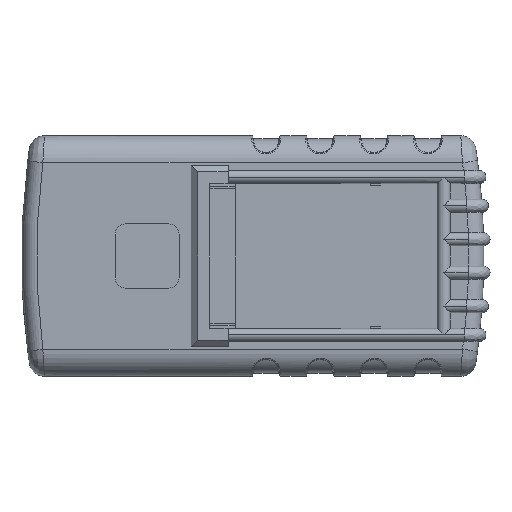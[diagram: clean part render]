
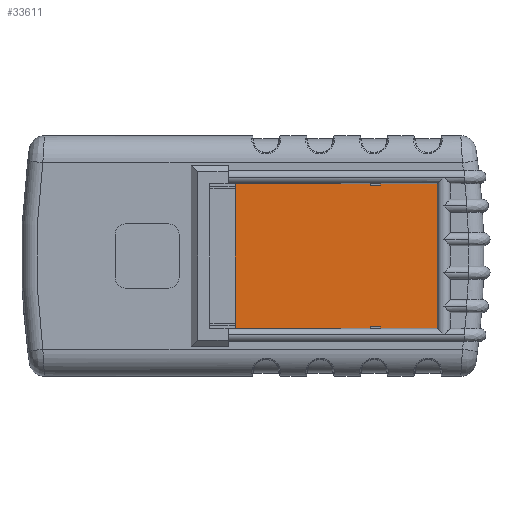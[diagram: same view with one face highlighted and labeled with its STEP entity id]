
A CAD part, front view. The second image highlights one B-rep face of the part: STEP entity #33611.
In plain terms, the highlighted planar face has unit normal (0, -1, 0).
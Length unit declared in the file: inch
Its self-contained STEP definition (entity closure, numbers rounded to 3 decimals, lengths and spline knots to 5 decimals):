
#173 = CARTESIAN_POINT ( 'NONE',  ( -0.32118, 0.035, 1.3435 ) ) ;
#204 = VERTEX_POINT ( 'NONE', #12272 ) ;
#562 = DIRECTION ( 'NONE',  ( 1., 0., 0. ) ) ;
#774 = EDGE_CURVE ( 'NONE', #32263, #35461, #35479, .T. ) ;
#1760 = CARTESIAN_POINT ( 'NONE',  ( 0., 0.035, -1.31086 ) ) ;
#3444 = EDGE_CURVE ( 'NONE', #18774, #32263, #21962, .T. ) ;
#3742 = EDGE_CURVE ( 'NONE', #35461, #20858, #6405, .T. ) ;
#4218 = VECTOR ( 'NONE', #24443, 39.37008 ) ;
#4499 = ORIENTED_EDGE ( 'NONE', *, *, #6376, .F. ) ;
#4663 = DIRECTION ( 'NONE',  ( 1., 0., 0. ) ) ;
#4907 = VECTOR ( 'NONE', #28160, 39.37008 ) ;
#4950 = CARTESIAN_POINT ( 'NONE',  ( 0., 0.035, 1.31086 ) ) ;
#5589 = CARTESIAN_POINT ( 'NONE',  ( 2.36682, 0.035, 1.31086 ) ) ;
#5959 = ORIENTED_EDGE ( 'NONE', *, *, #23989, .T. ) ;
#6376 = EDGE_CURVE ( 'NONE', #21614, #13974, #27217, .T. ) ;
#6405 = LINE ( 'NONE', #36306, #39376 ) ;
#6442 = ORIENTED_EDGE ( 'NONE', *, *, #774, .T. ) ;
#6958 = AXIS2_PLACEMENT_3D ( 'NONE', #11140, #33427, #14372 ) ;
#7834 = VERTEX_POINT ( 'NONE', #9357 ) ;
#7940 = PLANE ( 'NONE',  #6958 ) ;
#8883 = CARTESIAN_POINT ( 'NONE',  ( 2.36682, 0.035, 0. ) ) ;
#9357 = CARTESIAN_POINT ( 'NONE',  ( -0.32118, 0.035, 1.3435 ) ) ;
#10163 = EDGE_CURVE ( 'NONE', #20858, #7834, #31546, .T. ) ;
#10863 = EDGE_LOOP ( 'NONE', ( #6442, #24726, #20753, #27474, #17195, #20351, #28223, #4499, #29097, #5959, #20802, #17804 ) ) ;
#11140 = CARTESIAN_POINT ( 'NONE',  ( 0., 0.035, 0. ) ) ;
#12272 = CARTESIAN_POINT ( 'NONE',  ( 3.42182, 0.035, -1.3435 ) ) ;
#12364 = EDGE_CURVE ( 'NONE', #18033, #18774, #12706, .T. ) ;
#12706 = LINE ( 'NONE', #36692, #4218 ) ;
#12910 = VECTOR ( 'NONE', #562, 39.37008 ) ;
#13451 = VECTOR ( 'NONE', #24155, 39.37008 ) ;
#13974 = VERTEX_POINT ( 'NONE', #25494 ) ;
#14053 = VERTEX_POINT ( 'NONE', #33016 ) ;
#14372 = DIRECTION ( 'NONE',  ( 0., 0., -1. ) ) ;
#14637 = VECTOR ( 'NONE', #16247, 39.37008 ) ;
#16247 = DIRECTION ( 'NONE',  ( -1., 0., 0. ) ) ;
#16344 = DIRECTION ( 'NONE',  ( 0., 0., -1. ) ) ;
#16368 = VECTOR ( 'NONE', #16344, 39.37008 ) ;
#17195 = ORIENTED_EDGE ( 'NONE', *, *, #28209, .T. ) ;
#17799 = CARTESIAN_POINT ( 'NONE',  ( 2.36682, 0.035, 0. ) ) ;
#17804 = ORIENTED_EDGE ( 'NONE', *, *, #3444, .T. ) ;
#18033 = VERTEX_POINT ( 'NONE', #34905 ) ;
#18515 = DIRECTION ( 'NONE',  ( 0., 0., 1. ) ) ;
#18618 = VECTOR ( 'NONE', #21029, 39.37008 ) ;
#18774 = VERTEX_POINT ( 'NONE', #27874 ) ;
#19977 = EDGE_CURVE ( 'NONE', #13974, #14053, #37289, .T. ) ;
#20351 = ORIENTED_EDGE ( 'NONE', *, *, #38307, .F. ) ;
#20753 = ORIENTED_EDGE ( 'NONE', *, *, #10163, .T. ) ;
#20802 = ORIENTED_EDGE ( 'NONE', *, *, #12364, .T. ) ;
#20858 = VERTEX_POINT ( 'NONE', #28000 ) ;
#21008 = CARTESIAN_POINT ( 'NONE',  ( 2.36682, 0.035, -1.3435 ) ) ;
#21029 = DIRECTION ( 'NONE',  ( -1., 0., 0. ) ) ;
#21614 = VERTEX_POINT ( 'NONE', #21008 ) ;
#21962 = LINE ( 'NONE', #17799, #13451 ) ;
#22421 = VERTEX_POINT ( 'NONE', #27811 ) ;
#22584 = VECTOR ( 'NONE', #4663, 39.37008 ) ;
#23288 = CARTESIAN_POINT ( 'NONE',  ( 3.42182, 0.035, -1.3435 ) ) ;
#23989 = EDGE_CURVE ( 'NONE', #204, #18033, #24230, .T. ) ;
#24155 = DIRECTION ( 'NONE',  ( 0., 0., -1. ) ) ;
#24230 = LINE ( 'NONE', #23288, #40203 ) ;
#24443 = DIRECTION ( 'NONE',  ( -1., 0., 0. ) ) ;
#24726 = ORIENTED_EDGE ( 'NONE', *, *, #3742, .T. ) ;
#25494 = CARTESIAN_POINT ( 'NONE',  ( 2.36682, 0.035, -1.31086 ) ) ;
#25823 = LINE ( 'NONE', #173, #16368 ) ;
#27217 = LINE ( 'NONE', #8883, #34697 ) ;
#27474 = ORIENTED_EDGE ( 'NONE', *, *, #40196, .T. ) ;
#27811 = CARTESIAN_POINT ( 'NONE',  ( 2.17882, 0.035, -1.3435 ) ) ;
#27874 = CARTESIAN_POINT ( 'NONE',  ( 2.36682, 0.035, 1.3435 ) ) ;
#28000 = CARTESIAN_POINT ( 'NONE',  ( 2.17882, 0.035, 1.3435 ) ) ;
#28160 = DIRECTION ( 'NONE',  ( 0., 0., -1. ) ) ;
#28209 = EDGE_CURVE ( 'NONE', #28310, #22421, #31026, .T. ) ;
#28223 = ORIENTED_EDGE ( 'NONE', *, *, #19977, .F. ) ;
#28310 = VERTEX_POINT ( 'NONE', #39933 ) ;
#28778 = VECTOR ( 'NONE', #30475, 39.37008 ) ;
#29097 = ORIENTED_EDGE ( 'NONE', *, *, #37954, .T. ) ;
#29608 = FACE_OUTER_BOUND ( 'NONE', #10863, .T. ) ;
#29667 = DIRECTION ( 'NONE',  ( 0., 0., 1. ) ) ;
#30475 = DIRECTION ( 'NONE',  ( -1., 0., 0. ) ) ;
#31026 = LINE ( 'NONE', #39668, #22584 ) ;
#31546 = LINE ( 'NONE', #38525, #14637 ) ;
#31618 = CARTESIAN_POINT ( 'NONE',  ( 2.17882, 0.035, 0. ) ) ;
#32263 = VERTEX_POINT ( 'NONE', #5589 ) ;
#33016 = CARTESIAN_POINT ( 'NONE',  ( 2.17882, 0.035, -1.31086 ) ) ;
#33427 = DIRECTION ( 'NONE',  ( 0., -1., 0. ) ) ;
#33611 = ADVANCED_FACE ( 'NONE', ( #29608 ), #7940, .T. ) ;
#34697 = VECTOR ( 'NONE', #18515, 39.37008 ) ;
#34905 = CARTESIAN_POINT ( 'NONE',  ( 3.42182, 0.035, 1.3435 ) ) ;
#35461 = VERTEX_POINT ( 'NONE', #35462 ) ;
#35462 = CARTESIAN_POINT ( 'NONE',  ( 2.17882, 0.035, 1.31086 ) ) ;
#35479 = LINE ( 'NONE', #4950, #18618 ) ;
#36306 = CARTESIAN_POINT ( 'NONE',  ( 2.17882, 0.035, 0. ) ) ;
#36448 = DIRECTION ( 'NONE',  ( 0., 0., 1. ) ) ;
#36692 = CARTESIAN_POINT ( 'NONE',  ( 3.42182, 0.035, 1.3435 ) ) ;
#37289 = LINE ( 'NONE', #1760, #28778 ) ;
#37954 = EDGE_CURVE ( 'NONE', #21614, #204, #38332, .T. ) ;
#38307 = EDGE_CURVE ( 'NONE', #14053, #22421, #39829, .T. ) ;
#38332 = LINE ( 'NONE', #38767, #12910 ) ;
#38525 = CARTESIAN_POINT ( 'NONE',  ( 3.42182, 0.035, 1.3435 ) ) ;
#38767 = CARTESIAN_POINT ( 'NONE',  ( -0.32118, 0.035, -1.3435 ) ) ;
#39376 = VECTOR ( 'NONE', #36448, 39.37008 ) ;
#39668 = CARTESIAN_POINT ( 'NONE',  ( -0.32118, 0.035, -1.3435 ) ) ;
#39829 = LINE ( 'NONE', #31618, #4907 ) ;
#39933 = CARTESIAN_POINT ( 'NONE',  ( -0.32118, 0.035, -1.3435 ) ) ;
#40196 = EDGE_CURVE ( 'NONE', #7834, #28310, #25823, .T. ) ;
#40203 = VECTOR ( 'NONE', #29667, 39.37008 ) ;
